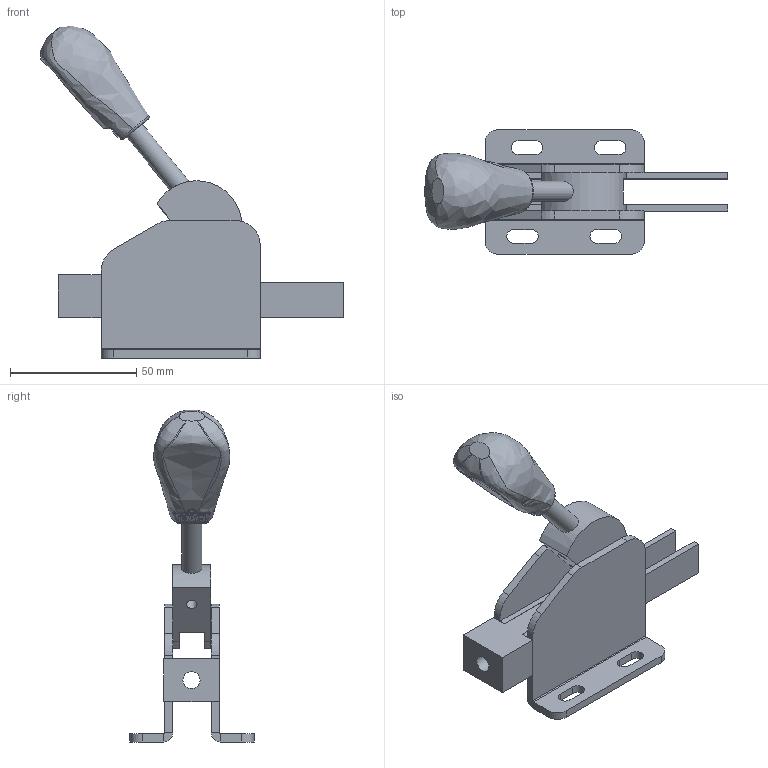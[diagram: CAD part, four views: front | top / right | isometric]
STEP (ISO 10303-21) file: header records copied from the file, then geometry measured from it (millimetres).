
FILE_DESCRIPTION(/* description */ (''),/* implementation_level */ '2;1');
FILE_NAME(/* name */ '\\192.168.1.150\pc03\Inventor\デュアルメカニズムクランプ最終\2017.10月　最新型\ＰＳＰ-33ＳＴ\PSP-33ST-UNCLAMP.stp',/* time_stamp */ '2024-05-16T13:10:48+09:00',/* author */ ('Backup'),/* organization */ (''),/* preprocessor_version */ 'ST-DEVELOPER v17',/* originating_system */ 'Autodesk Inventor 2019',/* authorisation */ '');
FILE_SCHEMA (('AUTOMOTIVE_DESIGN { 1 0 10303 214 3 1 1 }'));
Length unit declared in the file: millimetre
Products named in the file (8): psp-33st; YSP-BASE-PART1____; YSP-BASE-PART2____; YSP-SLIDE-ARM_2___; PART-1__; 50-30_VER4_PG2__12; Φ8×40ｼｬﾌﾄ; YSP-36CAM_
Assembly tree (8 placements, depth 2):
  psp-33st
    YSP-BASE-PART1____
    YSP-BASE-PART2____
    YSP-SLIDE-ARM_2___  x2
    PART-1__
    50-30_VER4_PG2__12
    Φ8×40ｼｬﾌﾄ
    YSP-36CAM_
Bounding box: 120.08 x 49.2 x 131.47 mm (x, y, z)
Volume: 69679.2 mm3; surface area: 38909.2 mm2
Topology: 8 solids, 8 shells, 226 faces, 600 edges, 394 vertices
Faces by surface type: plane 126, cylinder 71, bspline 24, sphere 4, cone 1
Full cylindrical faces by diameter (mm): 1.306 x1, 3 x6, 4.2 x1, 6 x1, 6.8 x1, 8 x2
Entity records: 16812 total; most frequent: CARTESIAN_POINT 11164, ORIENTED_EDGE 1140, DIRECTION 1097, EDGE_CURVE 570, AXIS2_PLACEMENT_3D 378, VERTEX_POINT 374, LINE 341, VECTOR 341
